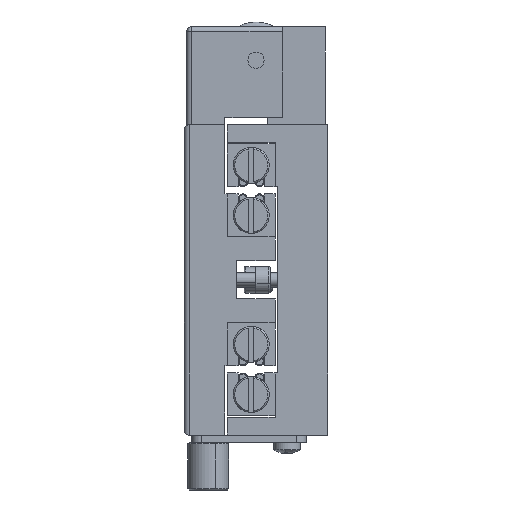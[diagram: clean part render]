
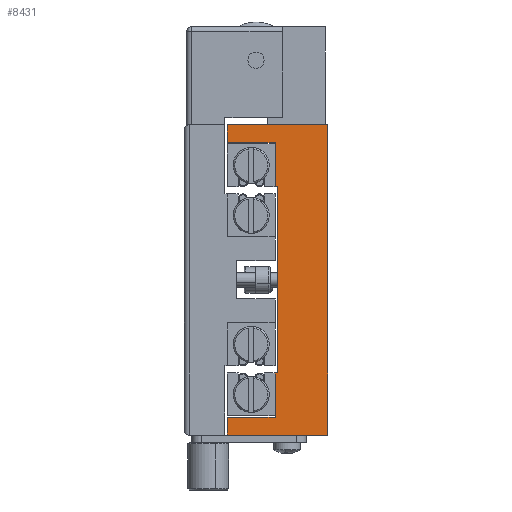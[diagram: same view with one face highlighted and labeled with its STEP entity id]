
A CAD part, left-side view. The second image highlights one B-rep face of the part: STEP entity #8431.
In plain terms, the highlighted planar face has unit normal (-1, 0, 0).
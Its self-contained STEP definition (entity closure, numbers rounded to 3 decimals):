
#301 = LINE ( 'NONE', #14464, #13612 ) ;
#376 = ORIENTED_EDGE ( 'NONE', *, *, #18392, .T. ) ;
#595 = CARTESIAN_POINT ( 'NONE',  ( -38.503, -0.05, 35.487 ) ) ;
#779 = CARTESIAN_POINT ( 'NONE',  ( -38.503, 10.95, -16.513 ) ) ;
#813 = ORIENTED_EDGE ( 'NONE', *, *, #9492, .F. ) ;
#1020 = VERTEX_POINT ( 'NONE', #18325 ) ;
#1066 = CARTESIAN_POINT ( 'NONE',  ( -38.503, 20.95, -25.763 ) ) ;
#1359 = ORIENTED_EDGE ( 'NONE', *, *, #8825, .F. ) ;
#1759 = VECTOR ( 'NONE', #14750, 1000. ) ;
#1784 = DIRECTION ( 'NONE',  ( 0., 1., 0. ) ) ;
#1909 = VECTOR ( 'NONE', #17481, 1000. ) ;
#1961 = CARTESIAN_POINT ( 'NONE',  ( -38.503, 20.95, -29.513 ) ) ;
#2010 = VECTOR ( 'NONE', #16427, 1000. ) ;
#2133 = ORIENTED_EDGE ( 'NONE', *, *, #13166, .F. ) ;
#2442 = LINE ( 'NONE', #16470, #13802 ) ;
#2484 = CARTESIAN_POINT ( 'NONE',  ( -38.503, 10.95, 22.487 ) ) ;
#2526 = CARTESIAN_POINT ( 'NONE',  ( -38.503, -0.05, -29.513 ) ) ;
#2680 = CARTESIAN_POINT ( 'NONE',  ( -38.503, 10.95, -25.763 ) ) ;
#3004 = VERTEX_POINT ( 'NONE', #16670 ) ;
#3577 = DIRECTION ( 'NONE',  ( 1., 0., 0. ) ) ;
#3599 = CARTESIAN_POINT ( 'NONE',  ( -38.503, 20.95, -29.513 ) ) ;
#3890 = DIRECTION ( 'NONE',  ( 0., 0., 1. ) ) ;
#3906 = LINE ( 'NONE', #10350, #14814 ) ;
#3948 = VERTEX_POINT ( 'NONE', #7700 ) ;
#4012 = EDGE_CURVE ( 'NONE', #9794, #7835, #11707, .T. ) ;
#4368 = ORIENTED_EDGE ( 'NONE', *, *, #15923, .T. ) ;
#4417 = VECTOR ( 'NONE', #16423, 1000. ) ;
#4560 = EDGE_CURVE ( 'NONE', #13999, #3004, #6602, .T. ) ;
#4581 = CARTESIAN_POINT ( 'NONE',  ( -38.503, 20.95, 31.737 ) ) ;
#4811 = LINE ( 'NONE', #11617, #11927 ) ;
#4819 = CARTESIAN_POINT ( 'NONE',  ( -38.503, 10.45, -16.513 ) ) ;
#5300 = VERTEX_POINT ( 'NONE', #13991 ) ;
#5474 = ORIENTED_EDGE ( 'NONE', *, *, #7653, .F. ) ;
#6113 = CARTESIAN_POINT ( 'NONE',  ( -38.503, 20.95, -29.513 ) ) ;
#6249 = DIRECTION ( 'NONE',  ( 0., 0., 1. ) ) ;
#6284 = VECTOR ( 'NONE', #10754, 1000. ) ;
#6313 = ORIENTED_EDGE ( 'NONE', *, *, #6389, .F. ) ;
#6389 = EDGE_CURVE ( 'NONE', #7835, #13741, #10605, .T. ) ;
#6602 = LINE ( 'NONE', #16074, #1909 ) ;
#6805 = CARTESIAN_POINT ( 'NONE',  ( -38.503, 20.95, -29.513 ) ) ;
#6820 = VECTOR ( 'NONE', #15499, 1000. ) ;
#7272 = VERTEX_POINT ( 'NONE', #2526 ) ;
#7653 = EDGE_CURVE ( 'NONE', #10286, #17465, #10560, .T. ) ;
#7676 = ORIENTED_EDGE ( 'NONE', *, *, #4560, .F. ) ;
#7700 = CARTESIAN_POINT ( 'NONE',  ( -38.503, 10.45, 22.487 ) ) ;
#7835 = VERTEX_POINT ( 'NONE', #14313 ) ;
#7937 = ORIENTED_EDGE ( 'NONE', *, *, #17340, .F. ) ;
#7983 = DIRECTION ( 'NONE',  ( 0., 1., 0. ) ) ;
#8431 = ADVANCED_FACE ( 'NONE', ( #14957 ), #12112, .F. ) ;
#8825 = EDGE_CURVE ( 'NONE', #1020, #3948, #9903, .T. ) ;
#9319 = CARTESIAN_POINT ( 'NONE',  ( -38.503, 20.95, -29.513 ) ) ;
#9452 = VECTOR ( 'NONE', #6249, 1000. ) ;
#9492 = EDGE_CURVE ( 'NONE', #17465, #13999, #13349, .T. ) ;
#9794 = VERTEX_POINT ( 'NONE', #4581 ) ;
#9903 = LINE ( 'NONE', #4819, #9452 ) ;
#9959 = EDGE_CURVE ( 'NONE', #3948, #12989, #2442, .T. ) ;
#10286 = VERTEX_POINT ( 'NONE', #6113 ) ;
#10350 = CARTESIAN_POINT ( 'NONE',  ( -38.503, 20.95, 31.737 ) ) ;
#10560 = LINE ( 'NONE', #3599, #6284 ) ;
#10605 = LINE ( 'NONE', #18286, #6820 ) ;
#10754 = DIRECTION ( 'NONE',  ( 0., 0., 1. ) ) ;
#11617 = CARTESIAN_POINT ( 'NONE',  ( -38.503, 10.95, 31.737 ) ) ;
#11707 = LINE ( 'NONE', #6805, #15047 ) ;
#11927 = VECTOR ( 'NONE', #13021, 1000. ) ;
#12112 = PLANE ( 'NONE',  #16457 ) ;
#12989 = VERTEX_POINT ( 'NONE', #2484 ) ;
#13021 = DIRECTION ( 'NONE',  ( 0., 0., 1. ) ) ;
#13102 = EDGE_CURVE ( 'NONE', #12989, #5300, #4811, .T. ) ;
#13166 = EDGE_CURVE ( 'NONE', #5300, #9794, #3906, .T. ) ;
#13349 = LINE ( 'NONE', #17848, #2010 ) ;
#13541 = DIRECTION ( 'NONE',  ( 0., 0., -1. ) ) ;
#13612 = VECTOR ( 'NONE', #17247, 1000. ) ;
#13741 = VERTEX_POINT ( 'NONE', #595 ) ;
#13802 = VECTOR ( 'NONE', #7983, 1000. ) ;
#13980 = ORIENTED_EDGE ( 'NONE', *, *, #13102, .F. ) ;
#13991 = CARTESIAN_POINT ( 'NONE',  ( -38.503, 10.95, 31.737 ) ) ;
#13999 = VERTEX_POINT ( 'NONE', #2680 ) ;
#14191 = EDGE_LOOP ( 'NONE', ( #17794, #2133, #13980, #17504, #1359, #7937, #7676, #813, #5474, #376, #4368, #6313 ) ) ;
#14313 = CARTESIAN_POINT ( 'NONE',  ( -38.503, 20.95, 35.487 ) ) ;
#14464 = CARTESIAN_POINT ( 'NONE',  ( -38.503, -0.05, -29.513 ) ) ;
#14750 = DIRECTION ( 'NONE',  ( 0., -1., 0. ) ) ;
#14814 = VECTOR ( 'NONE', #1784, 1000. ) ;
#14957 = FACE_OUTER_BOUND ( 'NONE', #14191, .T. ) ;
#15047 = VECTOR ( 'NONE', #3890, 1000. ) ;
#15499 = DIRECTION ( 'NONE',  ( 0., -1., 0. ) ) ;
#15923 = EDGE_CURVE ( 'NONE', #7272, #13741, #301, .T. ) ;
#16074 = CARTESIAN_POINT ( 'NONE',  ( -38.503, 10.95, -25.763 ) ) ;
#16423 = DIRECTION ( 'NONE',  ( 0., -1., 0. ) ) ;
#16427 = DIRECTION ( 'NONE',  ( 0., -1., 0. ) ) ;
#16457 = AXIS2_PLACEMENT_3D ( 'NONE', #9319, #3577, #13541 ) ;
#16470 = CARTESIAN_POINT ( 'NONE',  ( -38.503, 10.95, 22.487 ) ) ;
#16670 = CARTESIAN_POINT ( 'NONE',  ( -38.503, 10.95, -16.513 ) ) ;
#16691 = LINE ( 'NONE', #779, #4417 ) ;
#16903 = LINE ( 'NONE', #1961, #1759 ) ;
#17247 = DIRECTION ( 'NONE',  ( 0., 0., 1. ) ) ;
#17340 = EDGE_CURVE ( 'NONE', #3004, #1020, #16691, .T. ) ;
#17465 = VERTEX_POINT ( 'NONE', #1066 ) ;
#17481 = DIRECTION ( 'NONE',  ( 0., 0., 1. ) ) ;
#17504 = ORIENTED_EDGE ( 'NONE', *, *, #9959, .F. ) ;
#17794 = ORIENTED_EDGE ( 'NONE', *, *, #4012, .F. ) ;
#17848 = CARTESIAN_POINT ( 'NONE',  ( -38.503, 20.95, -25.763 ) ) ;
#18286 = CARTESIAN_POINT ( 'NONE',  ( -38.503, 20.95, 35.487 ) ) ;
#18325 = CARTESIAN_POINT ( 'NONE',  ( -38.503, 10.45, -16.513 ) ) ;
#18392 = EDGE_CURVE ( 'NONE', #10286, #7272, #16903, .T. ) ;
